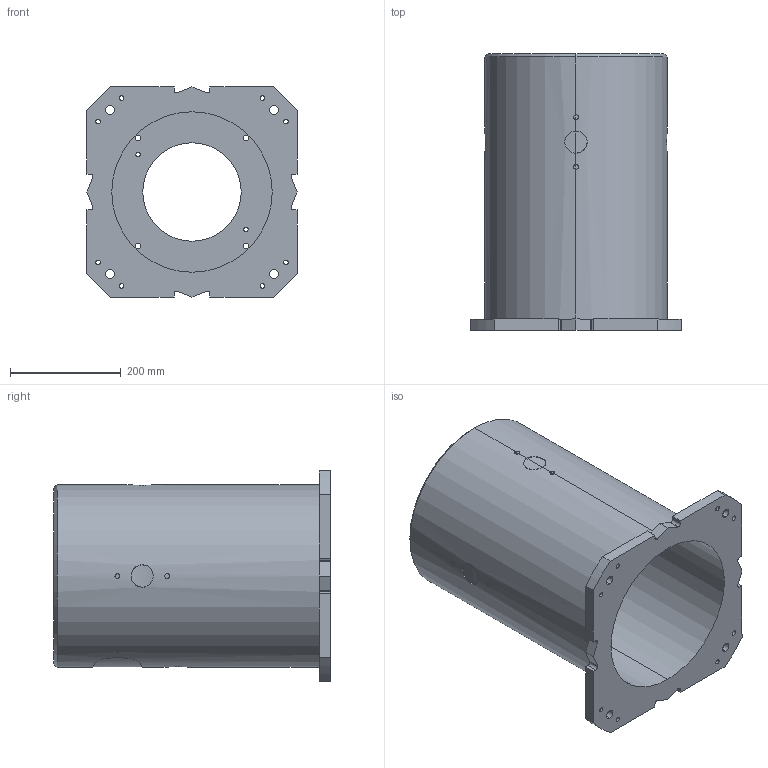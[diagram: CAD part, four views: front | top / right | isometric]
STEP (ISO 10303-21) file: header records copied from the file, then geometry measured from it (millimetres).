
FILE_DESCRIPTION (( 'STEP AP214' ), '1' );
FILE_NAME ('E-500.STEP', '2025-12-05T12:43:55', ( '' ), ( '' ), 'SwSTEP 2.0', 'SolidWorks 2022', '' );
FILE_SCHEMA (( 'AUTOMOTIVE_DESIGN' ));
Length unit declared in the file: millimetre
Products named in the file (1): E-500
Bounding box: 380 x 500 x 380 mm (x, y, z)
Volume: 11486098.3 mm3; surface area: 1211307.9 mm2
Topology: 1 solids, 1 shells, 146 faces, 400 edges, 266 vertices
Faces by surface type: cylinder 100, plane 28, bspline 16, cone 2
Entity records: 9751 total; most frequent: CARTESIAN_POINT 5547, ORIENTED_EDGE 800, DIRECTION 680, EDGE_CURVE 400, VERTEX_POINT 266, AXIS2_PLACEMENT_3D 257, EDGE_LOOP 194, VECTOR 166
